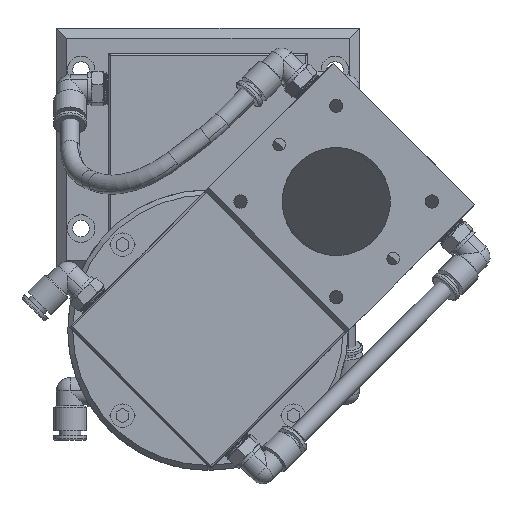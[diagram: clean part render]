
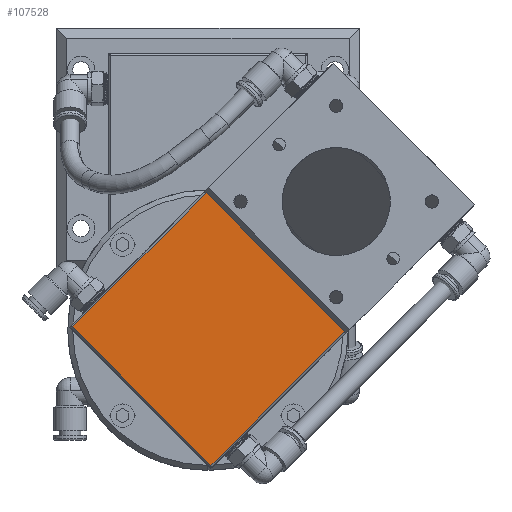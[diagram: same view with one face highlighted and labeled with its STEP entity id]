
A CAD part, top view. The second image highlights one B-rep face of the part: STEP entity #107528.
In plain terms, the highlighted planar face has unit normal (0, 0, 1).
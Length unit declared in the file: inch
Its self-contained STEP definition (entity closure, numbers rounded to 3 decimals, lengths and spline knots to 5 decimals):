
#5299 = DIRECTION ( 'NONE',  ( 0.707, 0.707, 0. ) ) ;
#11151 = EDGE_CURVE ( 'Defeatured_10_1+Defeatured_10_8+Defeatured_10_0+Defeatured_10_9', #64128, #103355, #100039, .T. ) ;
#11594 = CARTESIAN_POINT ( 'NONE',  ( 0.0548, -2.82382, 4.4375 ) ) ;
#12184 = ORIENTED_EDGE ( 'NONE', *, *, #88484, .T. ) ;
#20893 = CARTESIAN_POINT ( 'NONE',  ( -0.01945, 0.57382, 4.4375 ) ) ;
#21792 = CARTESIAN_POINT ( 'NONE',  ( 0.01945, -2.82382, 4.4375 ) ) ;
#23058 = AXIS2_PLACEMENT_3D ( 'NONE', #41172, #24686, #83505 ) ;
#24686 = DIRECTION ( 'NONE',  ( 0., 0., -1. ) ) ;
#25545 = VECTOR ( 'NONE', #79917, 39.37008 ) ;
#27214 = CARTESIAN_POINT ( 'NONE',  ( 1.7165, -1.16212, 4.4375 ) ) ;
#30737 = EDGE_CURVE ( 'Defeatured_10_1+Defeatured_10_0+Defeatured_10_5+Defeatured_10_8', #73083, #64128, #55675, .T. ) ;
#32375 = EDGE_CURVE ( 'Defeatured_10_1+Defeatured_10_9+Defeatured_10_8+Defeatured_10_5', #103355, #52173, #53070, .T. ) ;
#41172 = CARTESIAN_POINT ( 'NONE',  ( 0.03712, -2.8415, 4.4375 ) ) ;
#44775 = DIRECTION ( 'NONE',  ( -0.707, 0.707, 0. ) ) ;
#47893 = FACE_OUTER_BOUND ( 'NONE', #69521, .T. ) ;
#47945 = CARTESIAN_POINT ( 'NONE',  ( 1.69882, -1.14445, 4.4375 ) ) ;
#51014 = VECTOR ( 'NONE', #5299, 39.37008 ) ;
#52173 = VERTEX_POINT ( 'NONE', #82979 ) ;
#53070 = LINE ( 'NONE', #11594, #25545 ) ;
#54301 = VECTOR ( 'NONE', #77296, 39.37008 ) ;
#55675 = LINE ( 'NONE', #27214, #98707 ) ;
#64128 = VERTEX_POINT ( 'NONE', #20893 ) ;
#65383 = ORIENTED_EDGE ( 'NONE', *, *, #11151, .T. ) ;
#67231 = ORIENTED_EDGE ( 'NONE', *, *, #32375, .T. ) ;
#67433 = CARTESIAN_POINT ( 'NONE',  ( -1.69882, -1.10555, 4.4375 ) ) ;
#69521 = EDGE_LOOP ( 'NONE', ( #72132, #65383, #67231, #12184 ) ) ;
#72132 = ORIENTED_EDGE ( 'NONE', *, *, #30737, .T. ) ;
#73083 = VERTEX_POINT ( 'NONE', #47945 ) ;
#77296 = DIRECTION ( 'NONE',  ( -0.707, -0.707, 0. ) ) ;
#79917 = DIRECTION ( 'NONE',  ( 0.707, -0.707, 0. ) ) ;
#82979 = CARTESIAN_POINT ( 'NONE',  ( 0.03712, -2.80615, 4.4375 ) ) ;
#83147 = PLANE ( 'NONE',  #23058 ) ;
#83505 = DIRECTION ( 'NONE',  ( -0.707, 0.707, 0. ) ) ;
#88484 = EDGE_CURVE ( 'Defeatured_10_1+Defeatured_10_5+Defeatured_10_9+Defeatured_10_0', #52173, #73083, #104581, .T. ) ;
#98707 = VECTOR ( 'NONE', #44775, 39.37008 ) ;
#100039 = LINE ( 'NONE', #67433, #54301 ) ;
#103355 = VERTEX_POINT ( 'NONE', #106363 ) ;
#104581 = LINE ( 'NONE', #21792, #51014 ) ;
#106363 = CARTESIAN_POINT ( 'NONE',  ( -1.68115, -1.08788, 4.4375 ) ) ;
#107528 = ADVANCED_FACE ( 'Defeatured_10_1', ( #47893 ), #83147, .F. ) ;
